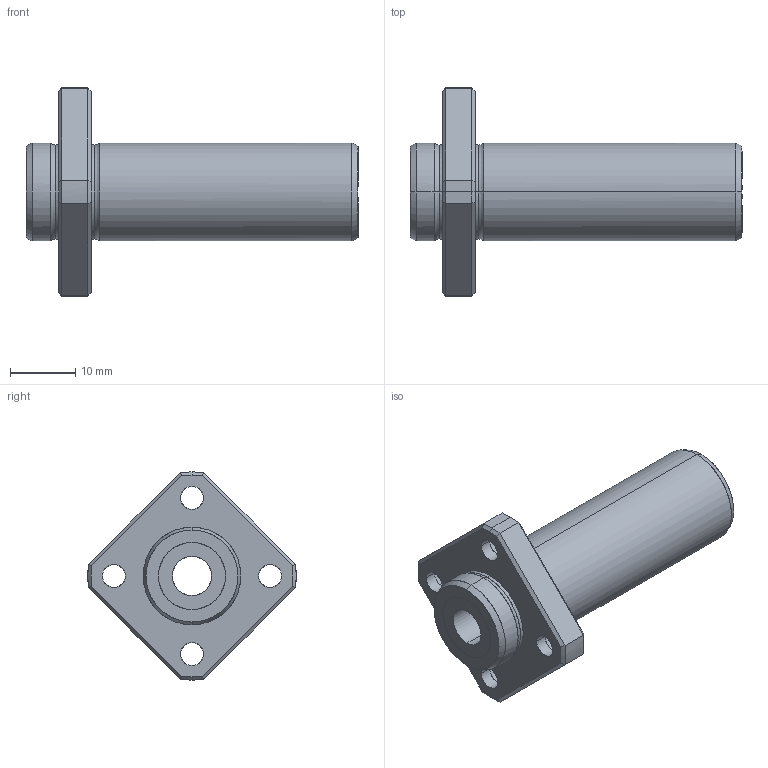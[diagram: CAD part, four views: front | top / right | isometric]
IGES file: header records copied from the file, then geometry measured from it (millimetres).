
Global section: file name: No Iges File Name specified; native system: AutoDesk Inventor R10; preprocessor: AutoDesk Inventor Iges Exporter R10; author: No Author specified; organization: No Organization specified; date: 20101211.163459; units: millimetre
Bounding box: 51 x 32 x 32 mm (x, y, z)
Surface area: 4949.2 mm2 (no closed solid volume)
Topology: 0 solids, 0 shells, 78 faces, 472 edges, 472 vertices
Faces by surface type: bspline 78
